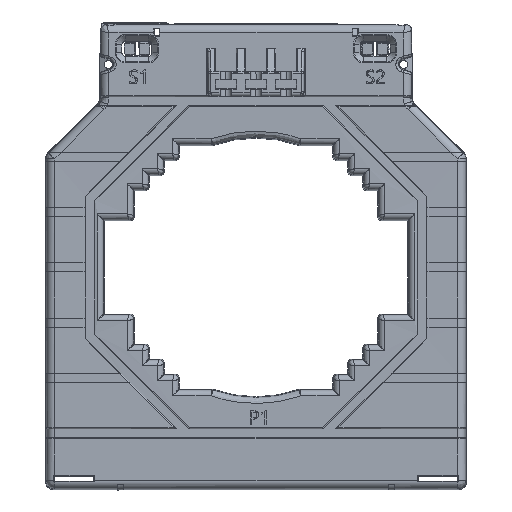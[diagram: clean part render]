
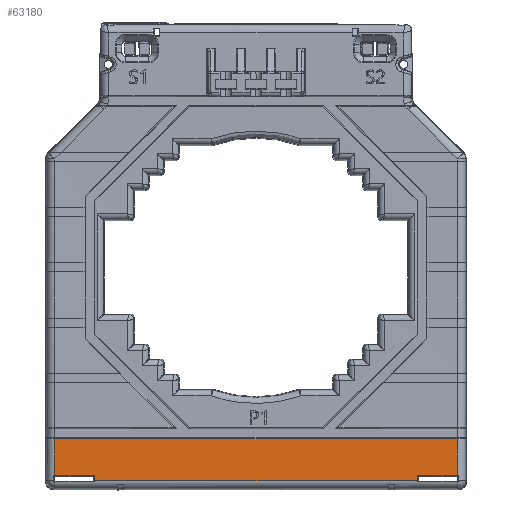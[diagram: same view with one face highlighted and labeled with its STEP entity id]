
A CAD part, top view. The second image highlights one B-rep face of the part: STEP entity #63180.
In plain terms, the highlighted planar face has unit normal (0, 0, 1).
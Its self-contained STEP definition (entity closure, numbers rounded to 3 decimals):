
#10 = VERTEX_POINT ( 'NONE', #23785 ) ;
#169 = PLANE ( 'NONE',  #47044 ) ;
#553 = FACE_OUTER_BOUND ( 'NONE', #64113, .T. ) ;
#1262 = CARTESIAN_POINT ( 'NONE',  ( 53.7, -70.96, 18.5 ) ) ;
#2452 = CARTESIAN_POINT ( 'NONE',  ( 66.96, -69.2, 18.5 ) ) ;
#2599 = CARTESIAN_POINT ( 'NONE',  ( -53.7, -70.96, 18.5 ) ) ;
#2825 = CARTESIAN_POINT ( 'NONE',  ( 66.96, -65.133, 18.5 ) ) ;
#4160 = CARTESIAN_POINT ( 'NONE',  ( -66.96, -69.2, 18.5 ) ) ;
#4768 = VERTEX_POINT ( 'NONE', #66869 ) ;
#6542 = VECTOR ( 'NONE', #49461, 1000. ) ;
#8198 = VERTEX_POINT ( 'NONE', #37434 ) ;
#10682 = CARTESIAN_POINT ( 'NONE',  ( 53.7, -69.2, 18.5 ) ) ;
#11024 = VERTEX_POINT ( 'NONE', #4160 ) ;
#11204 = ORIENTED_EDGE ( 'NONE', *, *, #51883, .T. ) ;
#11262 = CARTESIAN_POINT ( 'NONE',  ( -66.96, -70.96, 18.5 ) ) ;
#11782 = EDGE_CURVE ( 'NONE', #10, #8198, #39399, .T. ) ;
#13074 = DIRECTION ( 'NONE',  ( 1., 0., 0. ) ) ;
#14597 = LINE ( 'NONE', #32966, #6542 ) ;
#21095 = CARTESIAN_POINT ( 'NONE',  ( -66.96, -69.2, 18.5 ) ) ;
#21876 = VECTOR ( 'NONE', #56602, 1000. ) ;
#22482 = EDGE_CURVE ( 'NONE', #47400, #65361, #14597, .T. ) ;
#23112 = DIRECTION ( 'NONE',  ( 1., 0., 0. ) ) ;
#23785 = CARTESIAN_POINT ( 'NONE',  ( 66.96, -69.2, 18.5 ) ) ;
#24747 = ORIENTED_EDGE ( 'NONE', *, *, #22482, .T. ) ;
#25069 = EDGE_CURVE ( 'NONE', #11024, #32536, #42973, .T. ) ;
#25280 = LINE ( 'NONE', #31802, #68405 ) ;
#27337 = DIRECTION ( 'NONE',  ( 1., 0., 0. ) ) ;
#28207 = VECTOR ( 'NONE', #27337, 1000. ) ;
#31802 = CARTESIAN_POINT ( 'NONE',  ( 66.96, -57., 18.5 ) ) ;
#32536 = VERTEX_POINT ( 'NONE', #53548 ) ;
#32966 = CARTESIAN_POINT ( 'NONE',  ( 53.7, -70.96, 18.5 ) ) ;
#33364 = ORIENTED_EDGE ( 'NONE', *, *, #50469, .T. ) ;
#34288 = DIRECTION ( 'NONE',  ( 1., 0., 0. ) ) ;
#36906 = ORIENTED_EDGE ( 'NONE', *, *, #11782, .T. ) ;
#37434 = CARTESIAN_POINT ( 'NONE',  ( 66.96, -57., 18.5 ) ) ;
#39399 = B_SPLINE_CURVE_WITH_KNOTS ( 'NONE', 3,
 ( #2452, #2825, #65663, #61050 ),
 .UNSPECIFIED., .F., .F.,
 ( 4, 4 ),
 ( 0., 1. ),
 .UNSPECIFIED. ) ;
#42557 = ORIENTED_EDGE ( 'NONE', *, *, #70637, .T. ) ;
#42973 = LINE ( 'NONE', #21095, #43397 ) ;
#43397 = VECTOR ( 'NONE', #55595, 1000. ) ;
#44442 = ORIENTED_EDGE ( 'NONE', *, *, #25069, .T. ) ;
#47044 = AXIS2_PLACEMENT_3D ( 'NONE', #74861, #51891, #34288 ) ;
#47400 = VERTEX_POINT ( 'NONE', #1262 ) ;
#48539 = LINE ( 'NONE', #49673, #52719 ) ;
#48862 = CARTESIAN_POINT ( 'NONE',  ( -66.96, -69.2, 18.5 ) ) ;
#48882 = VECTOR ( 'NONE', #23112, 1000. ) ;
#49461 = DIRECTION ( 'NONE',  ( 0., 1., 0. ) ) ;
#49673 = CARTESIAN_POINT ( 'NONE',  ( -66.96, -70.96, 18.5 ) ) ;
#50469 = EDGE_CURVE ( 'NONE', #65361, #10, #66073, .T. ) ;
#51883 = EDGE_CURVE ( 'NONE', #4768, #11024, #48539, .T. ) ;
#51891 = DIRECTION ( 'NONE',  ( 0., 0., 1. ) ) ;
#52237 = LINE ( 'NONE', #11262, #48882 ) ;
#52719 = VECTOR ( 'NONE', #72999, 1000. ) ;
#53548 = CARTESIAN_POINT ( 'NONE',  ( -53.7, -69.2, 18.5 ) ) ;
#55058 = ORIENTED_EDGE ( 'NONE', *, *, #71317, .T. ) ;
#55595 = DIRECTION ( 'NONE',  ( 1., 0., 0. ) ) ;
#56602 = DIRECTION ( 'NONE',  ( 0., -1., 0. ) ) ;
#57365 = LINE ( 'NONE', #68833, #21876 ) ;
#59320 = VERTEX_POINT ( 'NONE', #2599 ) ;
#61050 = CARTESIAN_POINT ( 'NONE',  ( 66.96, -57., 18.5 ) ) ;
#63180 = ADVANCED_FACE ( 'NONE', ( #553 ), #169, .T. ) ;
#64113 = EDGE_LOOP ( 'NONE', ( #68910, #11204, #44442, #42557, #55058, #24747, #33364, #36906 ) ) ;
#65361 = VERTEX_POINT ( 'NONE', #10682 ) ;
#65663 = CARTESIAN_POINT ( 'NONE',  ( 66.96, -61.067, 18.5 ) ) ;
#66073 = LINE ( 'NONE', #48862, #28207 ) ;
#66869 = CARTESIAN_POINT ( 'NONE',  ( -66.96, -57., 18.5 ) ) ;
#68405 = VECTOR ( 'NONE', #13074, 1000. ) ;
#68833 = CARTESIAN_POINT ( 'NONE',  ( -53.7, -70.96, 18.5 ) ) ;
#68910 = ORIENTED_EDGE ( 'NONE', *, *, #71891, .F. ) ;
#70637 = EDGE_CURVE ( 'NONE', #32536, #59320, #57365, .T. ) ;
#71317 = EDGE_CURVE ( 'NONE', #59320, #47400, #52237, .T. ) ;
#71891 = EDGE_CURVE ( 'NONE', #4768, #8198, #25280, .T. ) ;
#72999 = DIRECTION ( 'NONE',  ( 0., -1., 0. ) ) ;
#74861 = CARTESIAN_POINT ( 'NONE',  ( -66.96, -70.96, 18.5 ) ) ;
